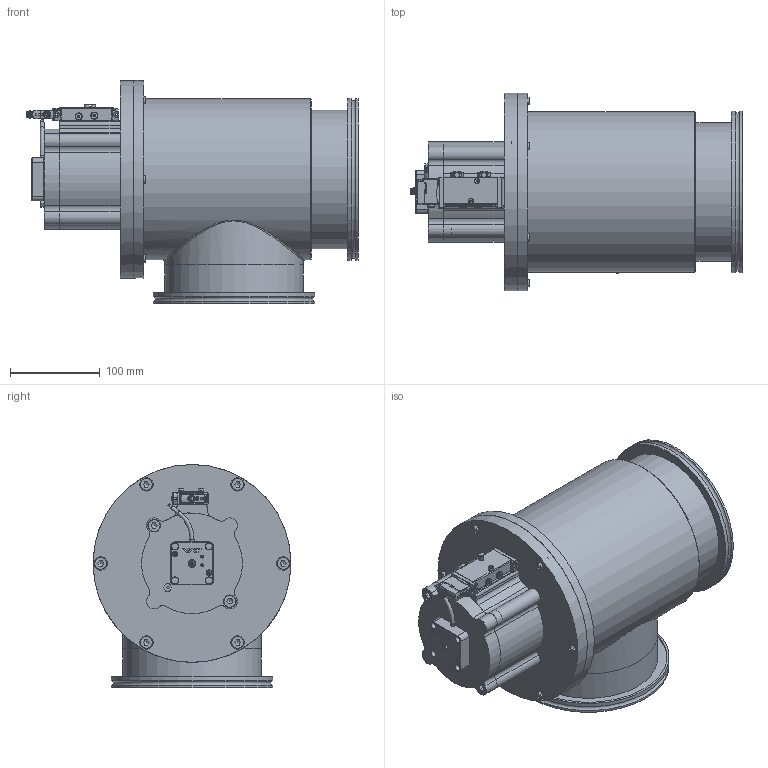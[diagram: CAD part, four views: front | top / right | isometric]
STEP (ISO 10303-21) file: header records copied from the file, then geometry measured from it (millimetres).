
FILE_DESCRIPTION(/* description */ (''),/* implementation_level */ '2;1');
FILE_NAME(/* name */ '1072703744_203.stp',/* time_stamp */ '2014-04-15T10:43:05+02:00',/* author */ (''),/* organization */ (''),/* preprocessor_version */ 'ST-DEVELOPER v11',/* originating_system */ 'SIEMENS PLM Software NX 7.5',/* authorisation */ '');
FILE_SCHEMA (('AP203_CONFIGURATION_CONTROLLED_3D_DESIGN_OF_MECHANICAL_PARTS_AND_ASSEMBLIES_MIM_LF'));
Length unit declared in the file: millimetre
Products named in the file (28): 521703; 521699; 521708; 521706; 521707; 521705; 366217; n-6134-404.1; n-6005-429.1; 571495; 538796; 421306; 233359; 236204_1.1; n-6121-026.2; 517625_18344ID; 711043; 544355; n-7636-200.2; 542372; 228777; 476060; 521696_MODEL; 522333_MODEL; 572183_MODEL; 421285; 544362_MODEL; 579556
Assembly tree (40 placements, depth 4):
  579556
    476060
    228777  x6
    542372
    544362_MODEL
      517625_18344ID
      n-6121-026.2  x2
    421285
      236204_1.1  x2
      233359
      421306
    n-7636-200.2
    572183_MODEL
      538796
      571495  x2
      n-6005-429.1  x2
      n-6134-404.1  x2
      366217  x2
    522333_MODEL
      521696_MODEL
        521705  x2
        521707
        521706
        521708
        521699
        521703
    544355
    711043  x2
Bounding box: 369.15 x 220 x 248 mm (x, y, z)
Volume: 1556162.6 mm3; surface area: 661989.2 mm2
Topology: 60 solids, 62 shells, 1620 faces, 3929 edges, 2545 vertices
Faces by surface type: plane 885, cylinder 478, cone 155, torus 54, bspline 21, extrusion 19, sphere 8
Full cylindrical faces by diameter (mm): 1 x3, 1.4 x4, 2.46 x2, 2.5 x7, 2.6 x2, 3 x11, 3.2 x4, 3.8 x1, 3.85 x2, 4.2 x2, 4.5 x3, 5 x1, 5.5 x2, 5.6 x3, 5.8 x1, 6 x4, 6.2 x2, 6.5 x2, 6.66 x8, 6.7 x8, 6.8 x10, 6.9 x1, 7.2 x1, 7.4 x3, 8 x20, 8.1 x1, 8.15 x2, 8.3 x6, 8.4 x1, 8.566 x5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
Entity records: 51373 total; most frequent: CARTESIAN_POINT 10486, DIRECTION 6884, ORIENTED_EDGE 6324, EDGE_CURVE 3162, AXIS2_PLACEMENT_3D 2593, VERTEX_POINT 2192, EDGE_LOOP 1876, VECTOR 1698
